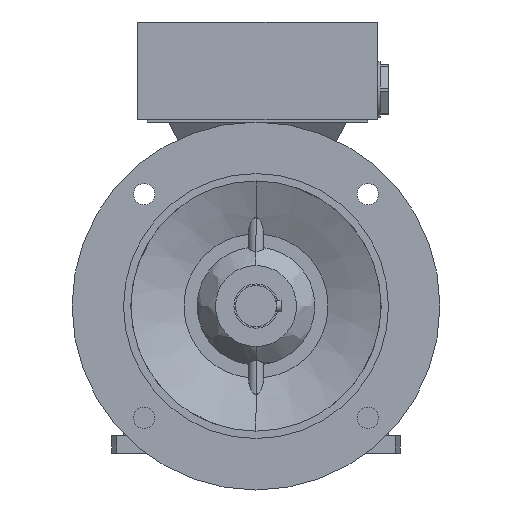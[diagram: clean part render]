
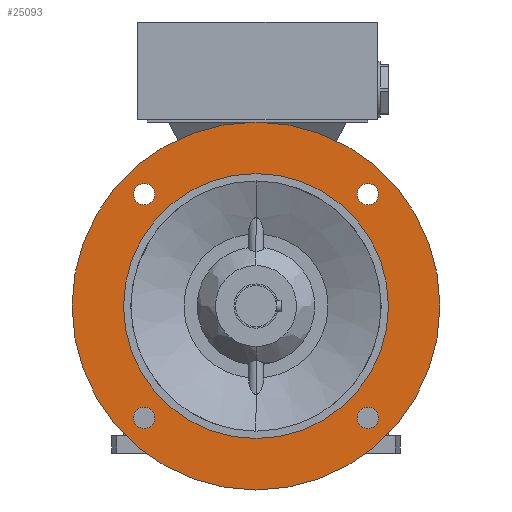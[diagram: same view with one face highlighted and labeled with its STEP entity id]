
A CAD part, left-side view. The second image highlights one B-rep face of the part: STEP entity #25093.
In plain terms, the highlighted planar face has unit normal (-1, 0, 0).
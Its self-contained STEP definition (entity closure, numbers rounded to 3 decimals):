
#550 = CIRCLE ( 'NONE', #23315, 90. ) ;
#2334 = AXIS2_PLACEMENT_3D ( 'NONE', #6641, #6642, #6643 ) ;
#2335 = AXIS2_PLACEMENT_3D ( 'NONE', #6644, #6645, #6646 ) ;
#2336 = AXIS2_PLACEMENT_3D ( 'NONE', #6647, #6648, #6649 ) ;
#2337 = AXIS2_PLACEMENT_3D ( 'NONE', #6650, #6651, #6652 ) ;
#2338 = AXIS2_PLACEMENT_3D ( 'NONE', #6653, #6654, #6655 ) ;
#4788 = DIRECTION ( 'NONE',  ( -1., 0., 0. ) ) ;
#4790 = PLANE ( 'NONE',  #16759 ) ;
#4792 = CARTESIAN_POINT ( 'NONE',  ( -40.5, 107.5, 0. ) ) ;
#4793 = DIRECTION ( 'NONE',  ( 0., 0., 1. ) ) ;
#6641 = CARTESIAN_POINT ( 'NONE',  ( -40.5, 0., 0. ) ) ;
#6642 = DIRECTION ( 'NONE',  ( 1., 0., 0. ) ) ;
#6643 = DIRECTION ( 'NONE',  ( 0., 0., 1. ) ) ;
#6644 = CARTESIAN_POINT ( 'NONE',  ( -40.5, -76.014, 76.014 ) ) ;
#6645 = DIRECTION ( 'NONE',  ( 1., 0., 0. ) ) ;
#6646 = DIRECTION ( 'NONE',  ( 0., 0., -1. ) ) ;
#6647 = CARTESIAN_POINT ( 'NONE',  ( -40.5, 76.014, 76.014 ) ) ;
#6648 = DIRECTION ( 'NONE',  ( 1., 0., 0. ) ) ;
#6649 = DIRECTION ( 'NONE',  ( 0., 0., -1. ) ) ;
#6650 = CARTESIAN_POINT ( 'NONE',  ( -40.5, 76.014, -76.014 ) ) ;
#6651 = DIRECTION ( 'NONE',  ( 1., 0., 0. ) ) ;
#6652 = DIRECTION ( 'NONE',  ( 0., 0., -1. ) ) ;
#6653 = CARTESIAN_POINT ( 'NONE',  ( -40.5, -76.014, -76.014 ) ) ;
#6654 = DIRECTION ( 'NONE',  ( 1., 0., 0. ) ) ;
#6655 = DIRECTION ( 'NONE',  ( 0., 0., -1. ) ) ;
#8628 = CIRCLE ( 'NONE', #26333, 7.25 ) ;
#8866 = FACE_BOUND ( 'NONE', #11476, .T. ) ;
#8872 = FACE_BOUND ( 'NONE', #19569, .T. ) ;
#8877 = FACE_BOUND ( 'NONE', #21857, .T. ) ;
#8879 = FACE_BOUND ( 'NONE', #17644, .T. ) ;
#8881 = FACE_OUTER_BOUND ( 'NONE', #17636, .T. ) ;
#8882 = FACE_BOUND ( 'NONE', #19566, .T. ) ;
#9379 = CIRCLE ( 'NONE', #2335, 7.25 ) ;
#9381 = CIRCLE ( 'NONE', #2334, 125. ) ;
#9382 = CIRCLE ( 'NONE', #2336, 7.25 ) ;
#9383 = CIRCLE ( 'NONE', #2337, 7.25 ) ;
#9384 = CIRCLE ( 'NONE', #2338, 7.25 ) ;
#10977 = CIRCLE ( 'NONE', #26239, 7.25 ) ;
#11002 = CIRCLE ( 'NONE', #26287, 7.25 ) ;
#11011 = CIRCLE ( 'NONE', #26309, 7.25 ) ;
#11033 = CIRCLE ( 'NONE', #26323, 125. ) ;
#11404 = ORIENTED_EDGE ( 'NONE', *, *, #24370, .T. ) ;
#11405 = ORIENTED_EDGE ( 'NONE', *, *, #17195, .T. ) ;
#11406 = ORIENTED_EDGE ( 'NONE', *, *, #25947, .F. ) ;
#11407 = ORIENTED_EDGE ( 'NONE', *, *, #17098, .F. ) ;
#11408 = ORIENTED_EDGE ( 'NONE', *, *, #25948, .T. ) ;
#11409 = ORIENTED_EDGE ( 'NONE', *, *, #17072, .T. ) ;
#11410 = ORIENTED_EDGE ( 'NONE', *, *, #25949, .T. ) ;
#11411 = ORIENTED_EDGE ( 'NONE', *, *, #17082, .T. ) ;
#11412 = ORIENTED_EDGE ( 'NONE', *, *, #25950, .T. ) ;
#11413 = ORIENTED_EDGE ( 'NONE', *, *, #17111, .T. ) ;
#11414 = ORIENTED_EDGE ( 'NONE', *, *, #25951, .T. ) ;
#11415 = ORIENTED_EDGE ( 'NONE', *, *, #17040, .T. ) ;
#11476 = EDGE_LOOP ( 'NONE', ( #11408, #11409 ) ) ;
#14485 = CARTESIAN_POINT ( 'NONE',  ( -40.5, 76.014, 83.264 ) ) ;
#14486 = CARTESIAN_POINT ( 'NONE',  ( -40.5, -76.014, 83.264 ) ) ;
#14496 = CARTESIAN_POINT ( 'NONE',  ( -40.5, 0., 125. ) ) ;
#14507 = CARTESIAN_POINT ( 'NONE',  ( -40.5, -76.014, -68.764 ) ) ;
#14509 = CARTESIAN_POINT ( 'NONE',  ( -40.5, 0., -125. ) ) ;
#14512 = CARTESIAN_POINT ( 'NONE',  ( -40.5, 0., 90. ) ) ;
#14515 = CARTESIAN_POINT ( 'NONE',  ( -40.5, 76.014, -68.764 ) ) ;
#14516 = CARTESIAN_POINT ( 'NONE',  ( -40.5, 76.014, 68.764 ) ) ;
#14520 = CARTESIAN_POINT ( 'NONE',  ( -40.5, 76.014, -83.264 ) ) ;
#14524 = CARTESIAN_POINT ( 'NONE',  ( -40.5, -76.014, -83.264 ) ) ;
#14535 = CARTESIAN_POINT ( 'NONE',  ( -40.5, 0., -90. ) ) ;
#14537 = CARTESIAN_POINT ( 'NONE',  ( -40.5, -76.014, 68.764 ) ) ;
#15108 = CARTESIAN_POINT ( 'NONE',  ( -40.5, -76.014, 76.014 ) ) ;
#15109 = DIRECTION ( 'NONE',  ( 1., 0., 0. ) ) ;
#15110 = DIRECTION ( 'NONE',  ( 0., 0., -1. ) ) ;
#15144 = CARTESIAN_POINT ( 'NONE',  ( -40.5, 76.014, 76.014 ) ) ;
#15145 = DIRECTION ( 'NONE',  ( 1., 0., 0. ) ) ;
#15146 = DIRECTION ( 'NONE',  ( 0., 0., -1. ) ) ;
#15209 = CARTESIAN_POINT ( 'NONE',  ( -40.5, 0., 0. ) ) ;
#15210 = DIRECTION ( 'NONE',  ( 1., 0., 0. ) ) ;
#15211 = DIRECTION ( 'NONE',  ( 0., 0., 1. ) ) ;
#15251 = CARTESIAN_POINT ( 'NONE',  ( -40.5, 76.014, -76.014 ) ) ;
#15252 = DIRECTION ( 'NONE',  ( 1., 0., 0. ) ) ;
#15253 = DIRECTION ( 'NONE',  ( 0., 0., -1. ) ) ;
#16317 = VERTEX_POINT ( 'NONE', #14485 ) ;
#16318 = VERTEX_POINT ( 'NONE', #14486 ) ;
#16328 = VERTEX_POINT ( 'NONE', #14496 ) ;
#16339 = VERTEX_POINT ( 'NONE', #14507 ) ;
#16341 = VERTEX_POINT ( 'NONE', #14509 ) ;
#16344 = VERTEX_POINT ( 'NONE', #14512 ) ;
#16347 = VERTEX_POINT ( 'NONE', #14515 ) ;
#16348 = VERTEX_POINT ( 'NONE', #14516 ) ;
#16352 = VERTEX_POINT ( 'NONE', #14520 ) ;
#16356 = VERTEX_POINT ( 'NONE', #14524 ) ;
#16367 = VERTEX_POINT ( 'NONE', #14535 ) ;
#16369 = VERTEX_POINT ( 'NONE', #14537 ) ;
#16702 = CARTESIAN_POINT ( 'NONE',  ( -40.5, -76.014, -76.014 ) ) ;
#16703 = DIRECTION ( 'NONE',  ( 1., 0., 0. ) ) ;
#16704 = DIRECTION ( 'NONE',  ( 0., 0., -1. ) ) ;
#16759 = AXIS2_PLACEMENT_3D ( 'NONE', #4792, #4788, #4793 ) ;
#17040 = EDGE_CURVE ( 'NONE', #16339, #16356, #10977, .T. ) ;
#17072 = EDGE_CURVE ( 'NONE', #16318, #16369, #11002, .T. ) ;
#17082 = EDGE_CURVE ( 'NONE', #16317, #16348, #11011, .T. ) ;
#17098 = EDGE_CURVE ( 'NONE', #16341, #16328, #11033, .T. ) ;
#17111 = EDGE_CURVE ( 'NONE', #16347, #16352, #8628, .T. ) ;
#17195 = EDGE_CURVE ( 'NONE', #16367, #16344, #22256, .T. ) ;
#17636 = EDGE_LOOP ( 'NONE', ( #11406, #11407 ) ) ;
#17644 = EDGE_LOOP ( 'NONE', ( #11412, #11413 ) ) ;
#19566 = EDGE_LOOP ( 'NONE', ( #11414, #11415 ) ) ;
#19569 = EDGE_LOOP ( 'NONE', ( #11410, #11411 ) ) ;
#20689 = CARTESIAN_POINT ( 'NONE',  ( -40.5, 0., 0. ) ) ;
#20690 = DIRECTION ( 'NONE',  ( 1., 0., 0. ) ) ;
#20691 = DIRECTION ( 'NONE',  ( 0., 0., 1. ) ) ;
#21857 = EDGE_LOOP ( 'NONE', ( #11404, #11405 ) ) ;
#22256 = CIRCLE ( 'NONE', #26305, 90. ) ;
#23315 = AXIS2_PLACEMENT_3D ( 'NONE', #24872, #24873, #24874 ) ;
#24370 = EDGE_CURVE ( 'NONE', #16344, #16367, #550, .T. ) ;
#24872 = CARTESIAN_POINT ( 'NONE',  ( -40.5, 0., 0. ) ) ;
#24873 = DIRECTION ( 'NONE',  ( 1., 0., 0. ) ) ;
#24874 = DIRECTION ( 'NONE',  ( 0., 0., 1. ) ) ;
#25093 = ADVANCED_FACE ( 'NONE', ( #8877, #8881, #8866, #8872, #8879, #8882 ), #4790, .T. ) ;
#25947 = EDGE_CURVE ( 'NONE', #16328, #16341, #9381, .T. ) ;
#25948 = EDGE_CURVE ( 'NONE', #16369, #16318, #9379, .T. ) ;
#25949 = EDGE_CURVE ( 'NONE', #16348, #16317, #9382, .T. ) ;
#25950 = EDGE_CURVE ( 'NONE', #16352, #16347, #9383, .T. ) ;
#25951 = EDGE_CURVE ( 'NONE', #16356, #16339, #9384, .T. ) ;
#26239 = AXIS2_PLACEMENT_3D ( 'NONE', #16702, #16703, #16704 ) ;
#26287 = AXIS2_PLACEMENT_3D ( 'NONE', #15108, #15109, #15110 ) ;
#26305 = AXIS2_PLACEMENT_3D ( 'NONE', #20689, #20690, #20691 ) ;
#26309 = AXIS2_PLACEMENT_3D ( 'NONE', #15144, #15145, #15146 ) ;
#26323 = AXIS2_PLACEMENT_3D ( 'NONE', #15209, #15210, #15211 ) ;
#26333 = AXIS2_PLACEMENT_3D ( 'NONE', #15251, #15252, #15253 ) ;
